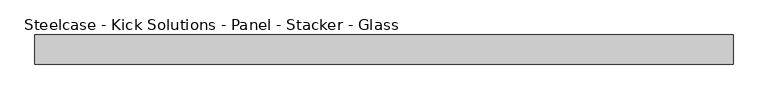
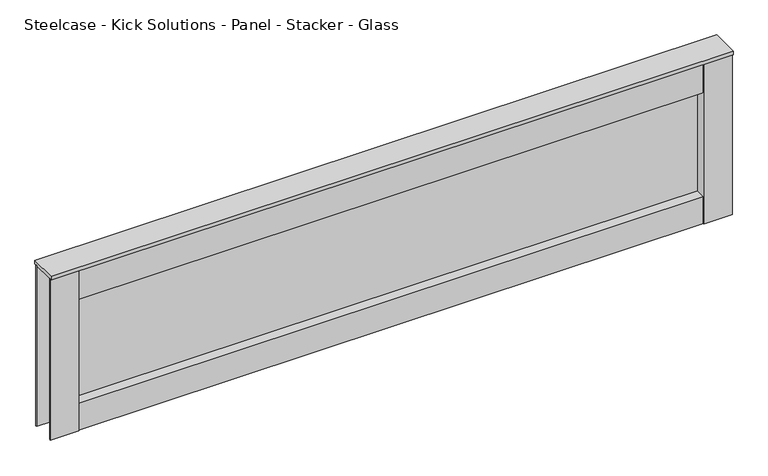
"""IFC4 building model written with IfcOpenShell, lengths in millimetres: furniture geometry, Steelcase - Kick Solutions - Panel - Stacker - Glass : 12H x 48W."""

from ifc_helpers import new_model, si_unit, frame, origin, place, context, project, spatial, polyline, outline, extrude, source, transform, mapped, element, save


def steelcase_kick_solutions_panel_stacker_glass_87d01c01(model_context):
    return source(origin(), model_context, "Body", "SweptSolid", [
        extrude(outline(polyline([(1168.4006661, -5.08), (1168.4006661, -45.7200015), (50.8006646, -45.7200015), (50.8006646, -5.08), (1168.4006661, -5.08)])), frame((0.0, 0.0, 1066.8), z_axis=(0.0, 0.0, 1.0), x_axis=(1.0, 0.0, 0.0)), (0.0, 0.0, 1.0), 50.6830951),
        extrude(outline(polyline([(1168.4006661, -5.08), (1168.4006661, -45.7200015), (50.8006646, -45.7200015), (50.8006646, -5.08), (1168.4006661, -5.08)])), frame((0.0, 0.0, 1314.45), z_axis=(0.0, 0.0, 1.0), x_axis=(1.0, 0.0, 0.0)), (0.0, 0.0, 1.0), 57.15),
        extrude(outline(polyline([(50.8006646, -3.1743148), (50.8006646, -47.6243142), (0.0, -47.6243142), (0.0, -45.7200015), (47.7526646, -45.7200015), (47.7526646, -5.08), (0.0, -5.08), (0.0, -3.1743148), (50.8006646, -3.1743148)])), frame((0.0, 0.0, 1066.8), z_axis=(0.0, 0.0, 1.0), x_axis=(1.0, 0.0, 0.0)), (0.0, 0.0, 1.0), 304.8),
        extrude(outline(polyline([(1168.4006661, -3.1743148), (1219.2, -3.1743148), (1219.2, -5.08), (1171.4486661, -5.08), (1171.4486661, -45.7200015), (1219.2, -45.7200015), (1219.2, -47.6243142), (1168.4006661, -47.6243142), (1168.4006661, -3.1743148)])), frame((0.0, 0.0, 1066.8), z_axis=(0.0, 0.0, 1.0), x_axis=(1.0, 0.0, 0.0)), (0.0, 0.0, 1.0), 304.8),
        extrude(outline(polyline([(1168.4006661, -28.422537), (50.8006646, -28.422537), (50.8006646, -25.4), (1168.4006661, -25.4), (1168.4006661, -28.422537)])), frame((0.0, 0.0, 1117.4830951), z_axis=(0.0, 0.0, 1.0), x_axis=(1.0, 0.0, 0.0)), (0.0, 0.0, 1.0), 196.9669049),
        extrude(outline(polyline([(1219.2, 0.0), (1219.2, -50.8000015), (0.0, -50.8000015), (0.0, 0.0), (1219.2, 0.0)])), frame((0.0, 0.0, 1371.6), z_axis=(0.0, 0.0, 1.0), x_axis=(1.0, 0.0, 0.0)), (0.0, 0.0, 1.0), 6.35),
    ])


if __name__ == "__main__":
    model = new_model("IFC4")
    model_context = context("Model", 3, world=origin())
    ifc_project = project(units=[si_unit("LENGTHUNIT", "METRE", prefix="MILLI")], contexts=[model_context])
    site = spatial("IfcSite", under=ifc_project)
    building = spatial("IfcBuilding", under=site)
    placement = place(None, origin())
    steelcase_kick_solutions_panel_stacker_glass_shape = steelcase_kick_solutions_panel_stacker_glass_87d01c01(model_context)
    element("IfcFurniture", 1, ObjectType="Steelcase - Kick Solutions - Panel - Stacker - Glass : 12H x 48W", at=placement, inside=building, context=model_context, shape_type="MappedRepresentation", body=[
        mapped(steelcase_kick_solutions_panel_stacker_glass_shape, transform((0.0, 0.0, 0.0), x_axis=(1.0, 0.0, 0.0), y_axis=(0.0, 1.0, 0.0), z_axis=(0.0, 0.0, 1.0))),
    ])
    save(model, "model.ifc")
